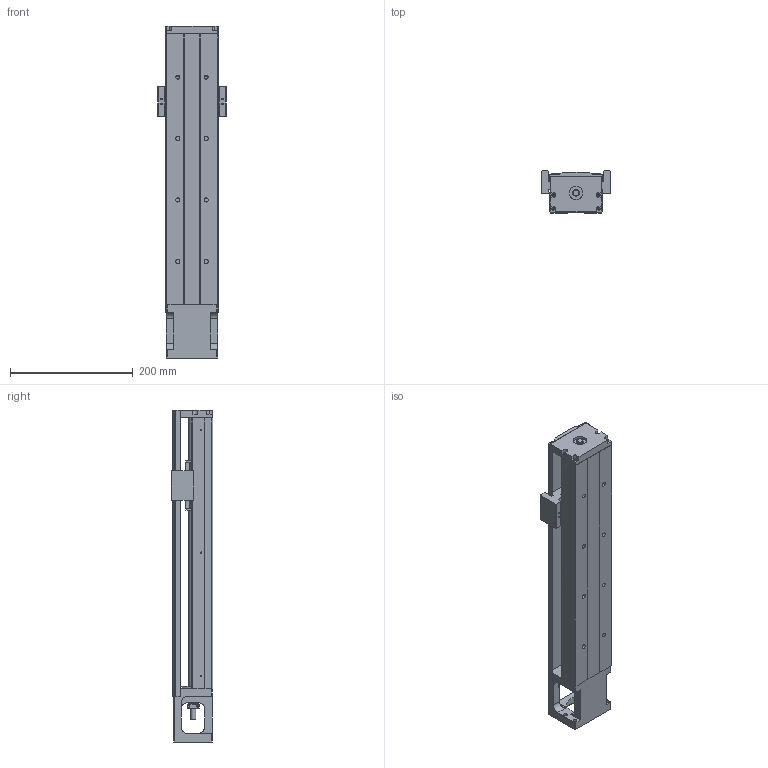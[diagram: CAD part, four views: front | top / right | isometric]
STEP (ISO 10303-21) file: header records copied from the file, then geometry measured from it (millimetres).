
FILE_DESCRIPTION(/* description */ (''),/* implementation_level */ '2;1');
FILE_NAME(/* name */ '46S-440C.stp',/* time_stamp */ '2019-09-05T13:24:57+08:00',/* author */ (''),/* organization */ (''),/* preprocessor_version */ 'ST-DEVELOPER v16',/* originating_system */ 'SIEMENS PLM Software NX 10.0',/* authorisation */ '');
FILE_SCHEMA (('AP203_CONFIGURATION_CONTROLLED_3D_DESIGN_OF_MECHANICAL_PARTS_AND_ASSEMBLIES_MIM_LF { 1 0 10303 403 2 1 2}'));
Length unit declared in the file: millimetre
Products named in the file (1): 0154B620C536ce7r
Bounding box: 112 x 68 x 540 mm (x, y, z)
Volume: 1444492.4 mm3; surface area: 370831.9 mm2
Topology: 7 solids, 18 shells, 681 faces, 1789 edges, 1187 vertices
Faces by surface type: plane 334, cylinder 245, cone 53, bspline 41, torus 8
Full cylindrical faces by diameter (mm): 2 x2, 2.11 x2, 2.15 x6, 2.42 x6, 2.5 x4, 3 x4, 3.2 x4, 3.3 x12, 3.4 x8, 4 x6, 4.2 x4, 4.5 x8, 5 x8, 6 x8, 6.35 x2, 6.6 x7, 6.7 x2, 8 x1, 8.7 x4, 9.6 x1, 10 x3, 11 x8, 12 x1, 14.95 x2, 15 x1, 16 x2, 22 x3, 27.5 x1, 44 x1, 50 x1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
Entity records: 28629 total; most frequent: CARTESIAN_POINT 12995, ORIENTED_EDGE 3098, DIRECTION 3032, EDGE_CURVE 1549, VERTEX_POINT 1116, AXIS2_PLACEMENT_3D 1116, EDGE_LOOP 955, LINE 800
